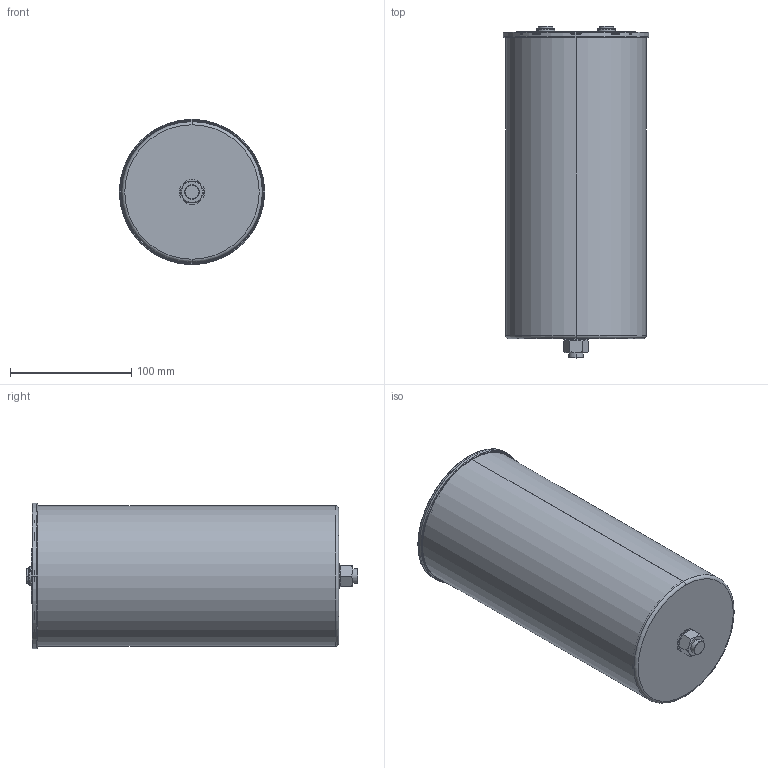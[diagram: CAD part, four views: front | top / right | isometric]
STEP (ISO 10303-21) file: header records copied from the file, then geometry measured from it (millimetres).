
FILE_DESCRIPTION (( 'STEP AP203' ), '1' );
FILE_NAME ('B25680Bx_116x253_258 .STEP', '2021-09-13T07:22:26', ( '' ), ( '' ), 'SwSTEP 2.0', 'SolidWorks 2017', '' );
FILE_SCHEMA (( 'CONFIG_CONTROL_DESIGN' ));
Length unit declared in the file: millimetre
Products named in the file (1): B25680Bx_116x253_258 
Bounding box: 120 x 274 x 120 mm (x, y, z)
Volume: 153357.5 mm3; surface area: 254628.8 mm2
Topology: 1 solids, 7 shells, 385 faces, 908 edges, 572 vertices
Faces by surface type: plane 153, cylinder 142, torus 42, cone 36, bspline 12
Entity records: 12405 total; most frequent: CARTESIAN_POINT 3162, DIRECTION 2092, ORIENTED_EDGE 1808, EDGE_CURVE 904, AXIS2_PLACEMENT_3D 850, VERTEX_POINT 572, CIRCLE 476, EDGE_LOOP 436
